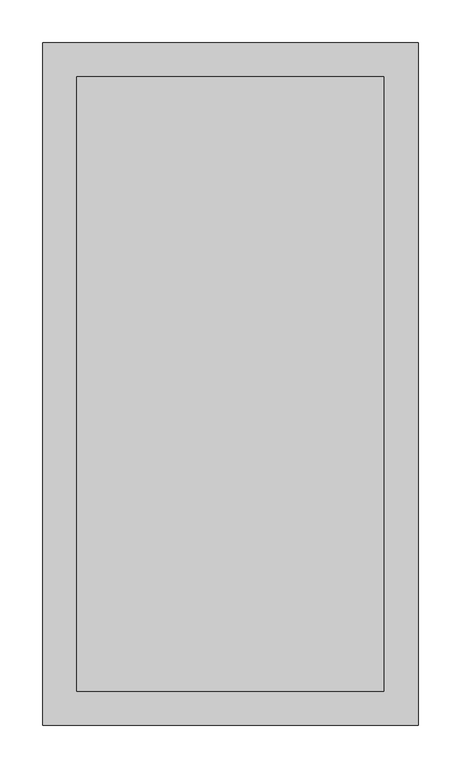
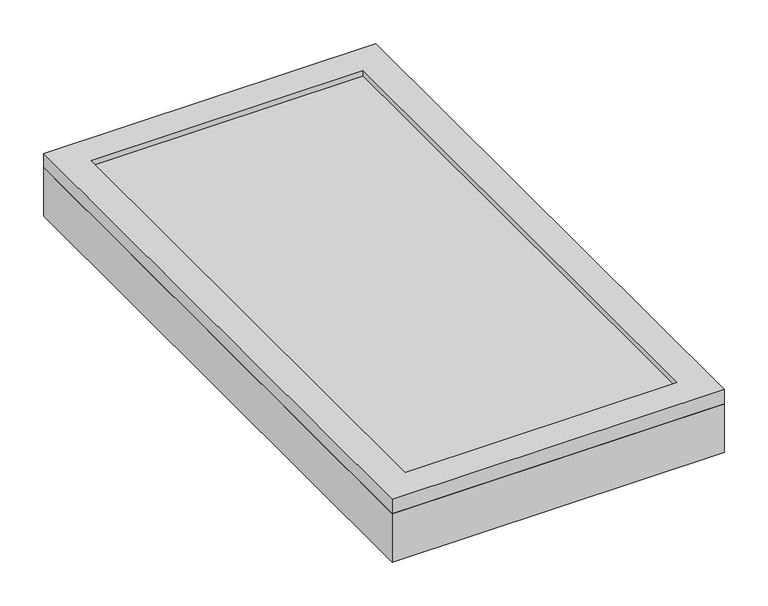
"""IFC4 building model written with IfcOpenShell, lengths in millimetres: furniture geometry, MUEBLE-CA-portallaves-PET : C21 MUEBLE-CA-portallaves-PET."""

from ifc_helpers import new_model, si_unit, frame, origin, origin_with_axes, place, context, project, spatial, polyline, outline, extrude, source, transform, mapped, element, save


def furniture_d5d44c6f(model_context):
    return source(origin(), model_context, "Body", "SweptSolid", [
        extrude(outline(polyline([(220.0, 400.0), (220.0, -400.0), (-220.0, -400.0), (-220.0, 400.0), (220.0, 400.0)]), holes=[polyline([(200.0, 380.0), (-200.0, 380.0), (-200.0, -380.0), (200.0, -380.0), (200.0, 380.0)])]), origin_with_axes(), (0.0, 0.0, 1.0), 68.0),
        extrude(outline(polyline([(200.0, 380.0), (200.0, -380.0), (-200.0, -380.0), (-200.0, 380.0), (200.0, 380.0)])), origin_with_axes(), (0.0, 0.0, 1.0), 15.0),
        extrude(outline(polyline([(220.0, 400.0), (220.0, -400.0), (-220.0, -400.0), (-220.0, 400.0), (220.0, 400.0)]), holes=[polyline([(180.0, 360.0), (-180.0, 360.0), (-180.0, -360.0), (180.0, -360.0), (180.0, 360.0)])]), frame((0.0, 0.0, 68.0), z_axis=(0.0, 0.0, 1.0), x_axis=(1.0, 0.0, 0.0)), (0.0, 0.0, 1.0), 20.0),
        extrude(outline(polyline([(180.0, 360.0), (180.0, -360.0), (-180.0, -360.0), (-180.0, 360.0), (180.0, 360.0)])), frame((0.0, 0.0, 75.0), z_axis=(0.0, 0.0, 1.0), x_axis=(1.0, 0.0, 0.0)), (0.0, 0.0, 1.0), 6.0),
    ])


if __name__ == "__main__":
    model = new_model("IFC4")
    model_context = context("Model", 3, world=origin())
    ifc_project = project(units=[si_unit("LENGTHUNIT", "METRE", prefix="MILLI")], contexts=[model_context])
    site = spatial("IfcSite", under=ifc_project)
    building = spatial("IfcBuilding", under=site)
    placement = place(None, origin())
    furniture_shape = furniture_d5d44c6f(model_context)
    element("IfcFurniture", 1, ObjectType="MUEBLE-CA-portallaves-PET : C21 MUEBLE-CA-portallaves-PET", at=placement, inside=building, context=model_context, shape_type="MappedRepresentation", body=[
        mapped(furniture_shape, transform((0.0, 0.0, 0.0), x_axis=(1.0, 0.0, 0.0), y_axis=(0.0, 1.0, 0.0), z_axis=(0.0, 0.0, 1.0))),
    ])
    save(model, "model.ifc")
